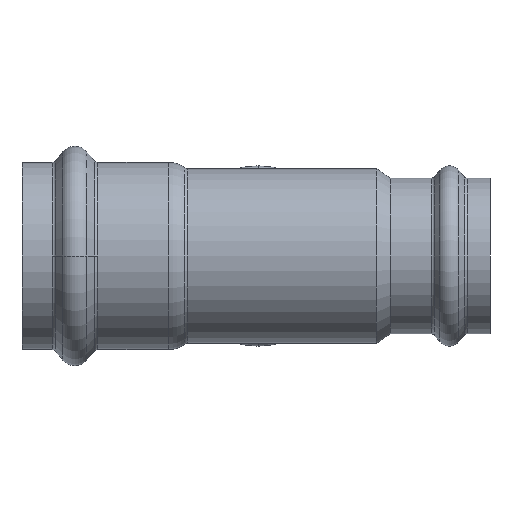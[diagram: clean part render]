
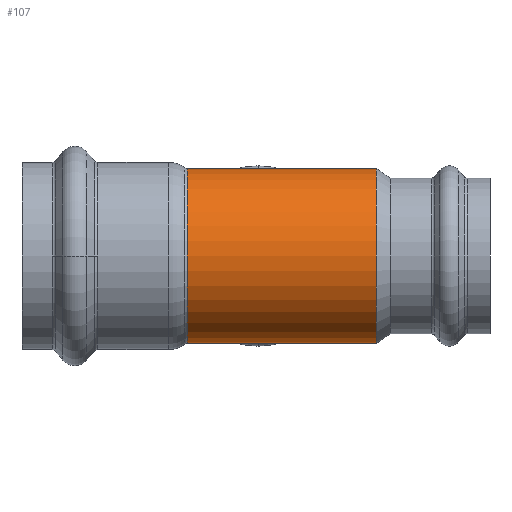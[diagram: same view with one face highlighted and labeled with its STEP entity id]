
A CAD part, front view. The second image highlights one B-rep face of the part: STEP entity #107.
In plain terms, the highlighted cylindrical face has radius 21.5 mm (diameter 43 mm), a partial arc.
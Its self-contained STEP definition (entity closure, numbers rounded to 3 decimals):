
#107 = ADVANCED_FACE ( 'NONE', ( #1683 ), #3889, .T. ) ;
#133 = CARTESIAN_POINT ( 'NONE',  ( -78.479, 0., 0. ) ) ;
#156 = VERTEX_POINT ( 'NONE', #4578 ) ;
#272 = EDGE_CURVE ( 'NONE', #1581, #5312, #1117, .T. ) ;
#556 = CARTESIAN_POINT ( 'NONE',  ( -78.479, 0., 21.5 ) ) ;
#598 = VERTEX_POINT ( 'NONE', #4036 ) ;
#614 = CIRCLE ( 'NONE', #4440, 21.5 ) ;
#833 = DIRECTION ( 'NONE',  ( -1., 0., 0. ) ) ;
#1117 = LINE ( 'NONE', #556, #3334 ) ;
#1269 = ORIENTED_EDGE ( 'NONE', *, *, #3801, .T. ) ;
#1303 = AXIS2_PLACEMENT_3D ( 'NONE', #133, #2622, #1677 ) ;
#1576 = CARTESIAN_POINT ( 'NONE',  ( -17.401, 0., 21.5 ) ) ;
#1581 = VERTEX_POINT ( 'NONE', #3187 ) ;
#1677 = DIRECTION ( 'NONE',  ( 0., 0., 1. ) ) ;
#1683 = FACE_OUTER_BOUND ( 'NONE', #2668, .T. ) ;
#1812 = LINE ( 'NONE', #5317, #2885 ) ;
#2048 = EDGE_CURVE ( 'NONE', #156, #598, #1812, .T. ) ;
#2181 = DIRECTION ( 'NONE',  ( 1., 0., 0. ) ) ;
#2425 = ORIENTED_EDGE ( 'NONE', *, *, #2048, .F. ) ;
#2622 = DIRECTION ( 'NONE',  ( -1., 0., 0. ) ) ;
#2668 = EDGE_LOOP ( 'NONE', ( #2425, #1269, #3071, #4366 ) ) ;
#2885 = VECTOR ( 'NONE', #4937, 1000. ) ;
#3071 = ORIENTED_EDGE ( 'NONE', *, *, #272, .T. ) ;
#3187 = CARTESIAN_POINT ( 'NONE',  ( 29.099, 0., 21.5 ) ) ;
#3334 = VECTOR ( 'NONE', #3775, 1000. ) ;
#3363 = AXIS2_PLACEMENT_3D ( 'NONE', #4814, #2181, #5264 ) ;
#3496 = CARTESIAN_POINT ( 'NONE',  ( 29.099, 0., 0. ) ) ;
#3775 = DIRECTION ( 'NONE',  ( -1., 0., 0. ) ) ;
#3801 = EDGE_CURVE ( 'NONE', #156, #1581, #614, .T. ) ;
#3889 = CYLINDRICAL_SURFACE ( 'NONE', #1303, 21.5 ) ;
#3928 = DIRECTION ( 'NONE',  ( 0., 0., 1. ) ) ;
#4036 = CARTESIAN_POINT ( 'NONE',  ( -17.401, 0., -21.5 ) ) ;
#4268 = EDGE_CURVE ( 'NONE', #5312, #598, #4961, .T. ) ;
#4366 = ORIENTED_EDGE ( 'NONE', *, *, #4268, .T. ) ;
#4440 = AXIS2_PLACEMENT_3D ( 'NONE', #3496, #833, #3928 ) ;
#4578 = CARTESIAN_POINT ( 'NONE',  ( 29.099, 0., -21.5 ) ) ;
#4814 = CARTESIAN_POINT ( 'NONE',  ( -17.401, 0., 0. ) ) ;
#4937 = DIRECTION ( 'NONE',  ( -1., 0., 0. ) ) ;
#4961 = CIRCLE ( 'NONE', #3363, 21.5 ) ;
#5264 = DIRECTION ( 'NONE',  ( 0., 0., 1. ) ) ;
#5312 = VERTEX_POINT ( 'NONE', #1576 ) ;
#5317 = CARTESIAN_POINT ( 'NONE',  ( -78.479, 0., -21.5 ) ) ;
